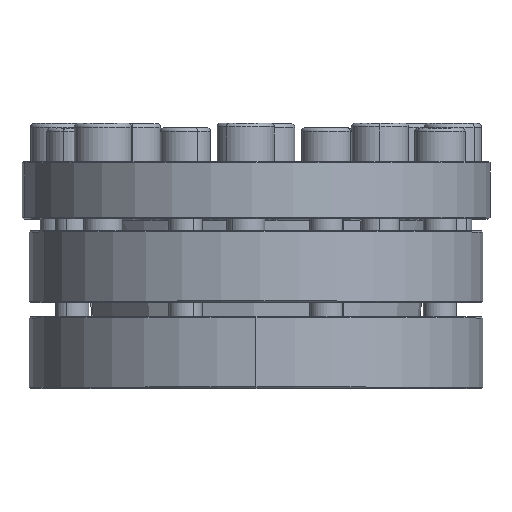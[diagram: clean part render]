
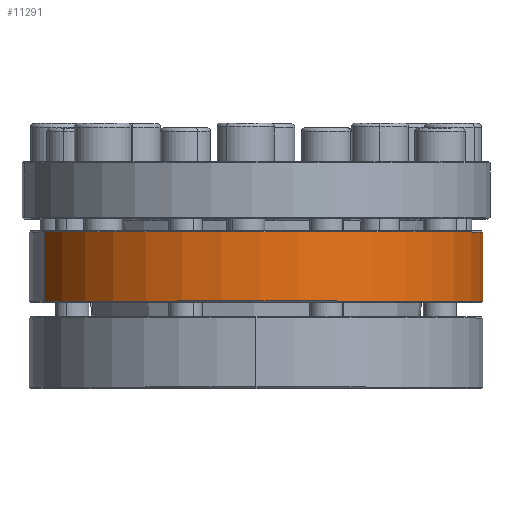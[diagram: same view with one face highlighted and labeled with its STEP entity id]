
A CAD part, top view. The second image highlights one B-rep face of the part: STEP entity #11291.
In plain terms, the highlighted cylindrical face has radius 95 mm (diameter 190 mm), a partial arc.
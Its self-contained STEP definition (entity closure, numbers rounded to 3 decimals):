
#89 = VECTOR ( 'NONE', #1980, 1000. ) ;
#321 = AXIS2_PLACEMENT_3D ( 'NONE', #1310, #16108, #3412 ) ;
#1310 = CARTESIAN_POINT ( 'NONE',  ( 0., 36.502, 0. ) ) ;
#1334 = DIRECTION ( 'NONE',  ( 0., -1., 0. ) ) ;
#1700 = VECTOR ( 'NONE', #6201, 1000. ) ;
#1980 = DIRECTION ( 'NONE',  ( 0., -1., 0. ) ) ;
#3412 = DIRECTION ( 'NONE',  ( -0.934, 0., 0.358 ) ) ;
#4184 = DIRECTION ( 'NONE',  ( 0., -1., 0. ) ) ;
#4400 = EDGE_CURVE ( 'NONE', #5729, #21570, #24197, .T. ) ;
#5729 = VERTEX_POINT ( 'NONE', #11823 ) ;
#6123 = CARTESIAN_POINT ( 'NONE',  ( -88.69, 36.502, 34.045 ) ) ;
#6128 = CIRCLE ( 'NONE', #321, 95. ) ;
#6201 = DIRECTION ( 'NONE',  ( 0., -1., 0. ) ) ;
#7071 = ORIENTED_EDGE ( 'NONE', *, *, #12365, .T. ) ;
#8510 = CIRCLE ( 'NONE', #18140, 95. ) ;
#8885 = EDGE_CURVE ( 'NONE', #10373, #5729, #8510, .T. ) ;
#9740 = EDGE_LOOP ( 'NONE', ( #22617, #24598, #7071, #26395 ) ) ;
#10373 = VERTEX_POINT ( 'NONE', #19739 ) ;
#11291 = ADVANCED_FACE ( 'NONE', ( #21709 ), #14094, .T. ) ;
#11823 = CARTESIAN_POINT ( 'NONE',  ( -88.69, 65.502, 34.045 ) ) ;
#12365 = EDGE_CURVE ( 'NONE', #21570, #23367, #6128, .T. ) ;
#13977 = CARTESIAN_POINT ( 'NONE',  ( 0., 65.502, 0. ) ) ;
#14094 = CYLINDRICAL_SURFACE ( 'NONE', #20620, 95. ) ;
#14806 = DIRECTION ( 'NONE',  ( 0.934, 0., -0.358 ) ) ;
#15072 = CARTESIAN_POINT ( 'NONE',  ( 88.69, 36.502, -34.045 ) ) ;
#16108 = DIRECTION ( 'NONE',  ( 0., 1., 0. ) ) ;
#16138 = DIRECTION ( 'NONE',  ( 0.934, 0., -0.358 ) ) ;
#16787 = CARTESIAN_POINT ( 'NONE',  ( 88.69, 36.002, -34.045 ) ) ;
#18140 = AXIS2_PLACEMENT_3D ( 'NONE', #13977, #1334, #16138 ) ;
#18865 = CARTESIAN_POINT ( 'NONE',  ( 0., 36.002, 0. ) ) ;
#18872 = CARTESIAN_POINT ( 'NONE',  ( -88.69, 36.002, 34.045 ) ) ;
#19739 = CARTESIAN_POINT ( 'NONE',  ( 88.69, 65.502, -34.045 ) ) ;
#20620 = AXIS2_PLACEMENT_3D ( 'NONE', #18865, #4184, #14806 ) ;
#21570 = VERTEX_POINT ( 'NONE', #6123 ) ;
#21709 = FACE_OUTER_BOUND ( 'NONE', #9740, .T. ) ;
#21879 = LINE ( 'NONE', #16787, #89 ) ;
#22617 = ORIENTED_EDGE ( 'NONE', *, *, #8885, .T. ) ;
#22637 = EDGE_CURVE ( 'NONE', #10373, #23367, #21879, .T. ) ;
#23367 = VERTEX_POINT ( 'NONE', #15072 ) ;
#24197 = LINE ( 'NONE', #18872, #1700 ) ;
#24598 = ORIENTED_EDGE ( 'NONE', *, *, #4400, .T. ) ;
#26395 = ORIENTED_EDGE ( 'NONE', *, *, #22637, .F. ) ;
